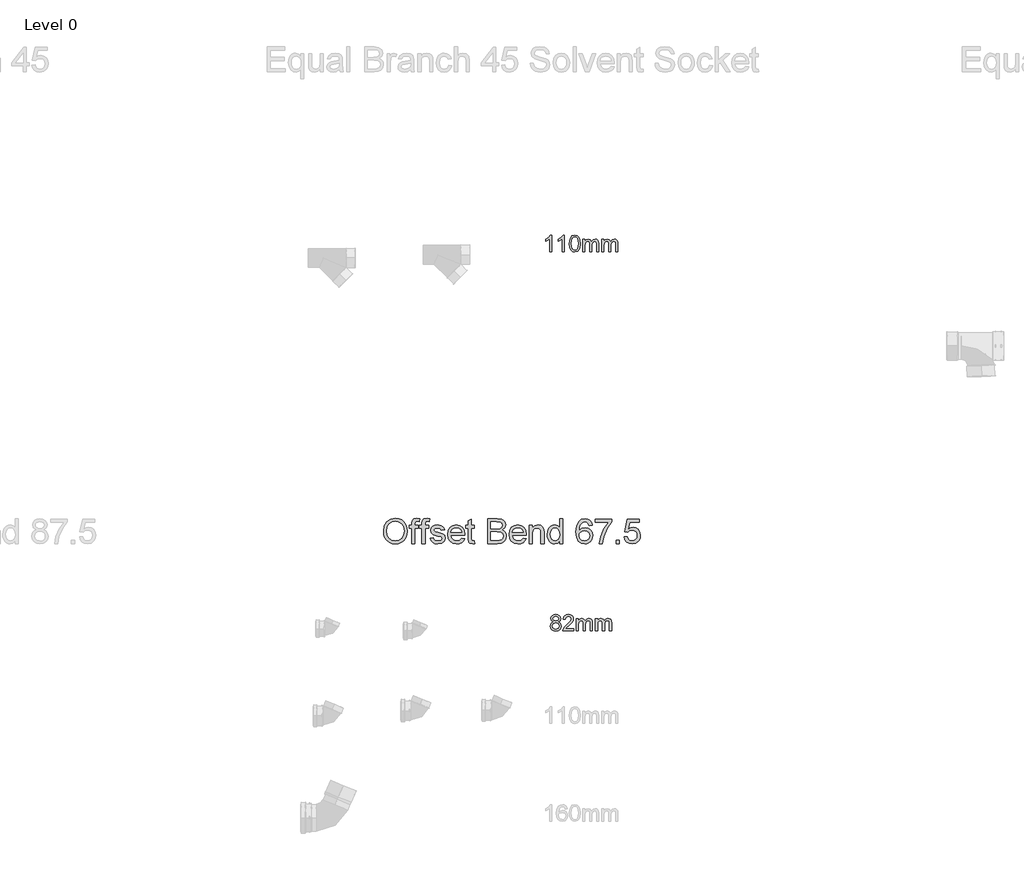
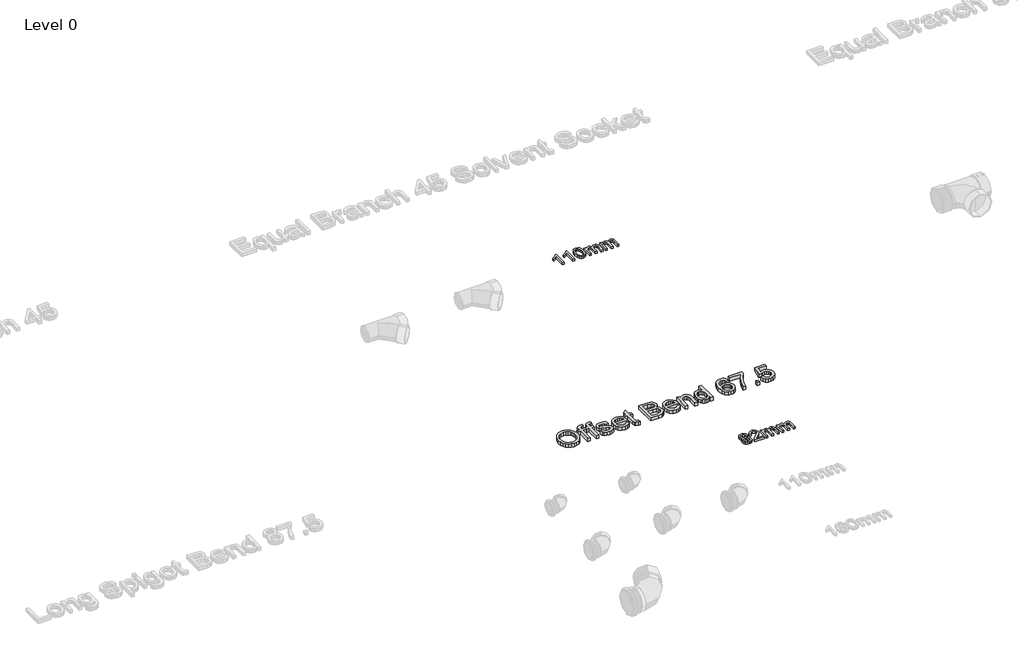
# One storey, part 16 of 28: 3 proxies.
"""IFC4 building model written with IfcOpenShell, lengths in millimetres."""

from ifc_helpers import new_model, si_unit, origin, origin_with_axes, place, context, project, spatial, polyline, outline, extrude, element, save

model = new_model("IFC4")

# Units and contexts
model_context = context("Model", 3, world=origin())
ifc_project = project(units=[si_unit("LENGTHUNIT", "METRE", prefix="MILLI")], contexts=[model_context])

# Site, building, storey
site = spatial("IfcSite", under=ifc_project)
building = spatial("IfcBuilding", under=site)
storey = spatial("IfcBuildingStorey", under=building, Name="Level 0", Elevation=0.0)

# Proxies
placement = place(None, origin())
element("IfcBuildingElementProxy", 1, Name="100mm Arial", ObjectType="100mm Arial", at=placement, inside=storey, context=model_context, shape_type="SweptSolid", body=[
    extrude(outline(polyline([(-10291.7293188, 2637.7167304), (-10304.0370111, 2637.7167304), (-10304.0370111, 2714.4474996), (-10315.6956649, 2706.1422111), (-10328.6523957, 2699.9282688), (-10328.6523957, 2711.5628842), (-10310.6115303, 2723.0773073), (-10299.6620111, 2736.1782688), (-10291.7293188, 2736.1782688), (-10291.7293188, 2637.7167304)])), origin_with_axes(), (0.0, 0.0, 1.0), 15.0),
    extrude(outline(polyline([(-10216.3447034, 2637.7167304), (-10228.6523957, 2637.7167304), (-10228.6523957, 2714.4474996), (-10240.3110495, 2706.1422111), (-10253.2677803, 2699.9282688), (-10253.2677803, 2711.5628842), (-10235.2269149, 2723.0773073), (-10224.2773957, 2736.1782688), (-10216.3447034, 2736.1782688), (-10216.3447034, 2637.7167304)])), origin_with_axes(), (0.0, 0.0, 1.0), 15.0),
    extrude(outline(polyline([(-10187.1139341, 2686.1542304), (-10183.4961457, 2714.4835573), (-10172.7509534, 2730.8176919), (-10154.8062418, 2736.1782688), (-10140.4312418, 2733.0051919), (-10130.5033572, 2723.8585573), (-10124.7341264, 2709.2912496), (-10122.4985495, 2686.1542304), (-10126.0802803, 2657.9450958), (-10136.7894149, 2641.5749035), (-10154.8062418, 2636.1782688), (-10167.5947034, 2638.5220188), (-10177.3062418, 2645.5532688), (-10184.6620111, 2662.2059131), (-10187.1139341, 2686.1542304)]), holes=[polyline([(-10174.8062418, 2686.1782688), (-10173.3639341, 2666.8182929), (-10169.0370111, 2655.613365), (-10162.5947034, 2650.2678121), (-10154.8062418, 2648.4859611), (-10147.0177803, 2650.2738217), (-10140.5754726, 2655.6374035), (-10136.2485495, 2666.848341), (-10134.8062418, 2686.1782688), (-10136.2004726, 2705.1025477), (-10140.3831649, 2716.394615), (-10146.8134534, 2722.0015861), (-10154.9504726, 2723.8705765), (-10162.6547995, 2722.2239419), (-10168.8447034, 2717.2840381), (-10173.3158572, 2705.2888458), (-10174.8062418, 2686.1782688)])]), origin_with_axes(), (0.0, 0.0, 1.0), 15.0),
    extrude(outline(polyline([(-10108.6523957, 2637.7167304), (-10108.6523957, 2710.0244227), (-10096.3447034, 2710.0244227), (-10096.3447034, 2698.1253842), (-10087.8831649, 2707.8729804), (-10075.8398957, 2711.5628842), (-10063.5081649, 2707.800865), (-10056.7293188, 2697.2599996), (-10047.1259534, 2707.9871631), (-10034.9985495, 2711.5628842), (-10025.7467466, 2710.0755044), (-10018.9047995, 2705.613365), (-10014.6770351, 2698.0562736), (-10013.2677803, 2687.2840381), (-10013.2677803, 2637.7167304), (-10025.5754726, 2637.7167304), (-10025.5754726, 2681.9955765), (-10026.7172995, 2692.2720188), (-10030.8519149, 2697.332115), (-10037.8831649, 2699.2551919), (-10049.9865303, 2694.3273073), (-10054.8062418, 2678.5340381), (-10054.8062418, 2637.7167304), (-10067.1139341, 2637.7167304), (-10067.1139341, 2683.3657688), (-10069.9624918, 2695.2888458), (-10079.3014341, 2699.2551919), (-10088.4120111, 2696.6109611), (-10094.4697034, 2688.8705765), (-10096.3447034, 2674.1830765), (-10096.3447034, 2637.7167304), (-10108.6523957, 2637.7167304)])), origin_with_axes(), (0.0, 0.0, 1.0), 15.0),
    extrude(outline(polyline([(-9994.8062418, 2637.7167304), (-9994.8062418, 2710.0244227), (-9982.4985495, 2710.0244227), (-9982.4985495, 2698.1253842), (-9974.0370111, 2707.8729804), (-9961.9937418, 2711.5628842), (-9949.6620111, 2707.800865), (-9942.8831649, 2697.2599996), (-9933.2797995, 2707.9871631), (-9921.1523957, 2711.5628842), (-9911.9005928, 2710.0755044), (-9905.0586457, 2705.613365), (-9900.8308813, 2698.0562736), (-9899.4216264, 2687.2840381), (-9899.4216264, 2637.7167304), (-9911.7293188, 2637.7167304), (-9911.7293188, 2681.9955765), (-9912.8711457, 2692.2720188), (-9917.0057611, 2697.332115), (-9924.0370111, 2699.2551919), (-9936.1403764, 2694.3273073), (-9940.960088, 2678.5340381), (-9940.960088, 2637.7167304), (-9953.2677803, 2637.7167304), (-9953.2677803, 2683.3657688), (-9956.116338, 2695.2888458), (-9965.4552803, 2699.2551919), (-9974.5658572, 2696.6109611), (-9980.6235495, 2688.8705765), (-9982.4985495, 2674.1830765), (-9982.4985495, 2637.7167304), (-9994.8062418, 2637.7167304)])), origin_with_axes(), (0.0, 0.0, 1.0), 15.0),
])
element("IfcBuildingElementProxy", 2, Name="100mm Arial", ObjectType="100mm Arial", at=placement, inside=storey, context=model_context, shape_type="SweptSolid", body=[
    extrude(outline(polyline([(-10282.2581649, 440.881174), (-10293.4721072, 448.5254048), (-10297.1139341, 460.4244433), (-10295.1307611, 470.0458375), (-10289.1812418, 477.9965587), (-10279.9324438, 483.3330971), (-10268.0514341, 485.1119433), (-10256.0983091, 483.2910298), (-10246.7293188, 477.8282894), (-10240.6716264, 469.7513663), (-10238.6523957, 460.0879048), (-10242.2461457, 448.4893471), (-10253.147588, 440.881174), (-10240.0586457, 431.2297317), (-10235.5754726, 415.304251), (-10237.7990303, 403.537424), (-10244.4697034, 393.8138663), (-10254.7701841, 387.287424), (-10267.8831649, 385.1119433), (-10280.9961457, 387.2964385), (-10291.2966264, 393.849924), (-10297.9672995, 403.6666308), (-10300.1908572, 415.6407894), (-10295.5273957, 431.9388663), (-10282.2581649, 440.881174)]), holes=[polyline([(-10284.8062418, 460.0638663), (-10280.4432611, 450.4004048), (-10267.7389341, 446.6504048), (-10255.2870111, 450.3763663), (-10250.960088, 459.5109817), (-10255.4312418, 468.9701163), (-10267.8831649, 472.804251), (-10280.3711457, 469.054251), (-10284.8062418, 460.0638663)]), polyline([(-10287.8831649, 416.0734817), (-10285.8278764, 406.8066548), (-10278.5562418, 399.8715587), (-10267.7870111, 397.4196356), (-10253.1235495, 402.5758856), (-10247.8831649, 415.6888663), (-10253.2918188, 429.054251), (-10259.7221072, 433.0205971), (-10268.1956649, 434.3427125), (-10282.678838, 429.1263663), (-10287.8831649, 416.0734817)])]), origin_with_axes(), (0.0, 0.0, 1.0), 15.0),
    extrude(outline(polyline([(-10161.7293188, 398.9580971), (-10161.7293188, 386.6504048), (-10226.3447034, 386.6504048), (-10225.022588, 395.1359817), (-10217.5466264, 408.2008856), (-10202.1379726, 422.4677125), (-10180.8879726, 442.9725202), (-10175.5754726, 456.9148279), (-10180.5874918, 468.2008856), (-10193.6764341, 472.804251), (-10207.3182611, 468.3090587), (-10212.4985495, 455.881174), (-10224.8062418, 457.4196356), (-10221.8224678, 469.3246837), (-10215.3711457, 478.0205971), (-10205.7888139, 483.3391067), (-10193.4120111, 485.1119433), (-10180.9450639, 483.1407894), (-10171.3807611, 477.2273279), (-10165.2960255, 468.3931933), (-10163.2677803, 457.6600202), (-10165.4552803, 445.9893471), (-10172.7269149, 433.9220394), (-10190.3591264, 417.0590587), (-10204.5177803, 405.2201163), (-10210.0706649, 398.9580971), (-10161.7293188, 398.9580971)])), origin_with_axes(), (0.0, 0.0, 1.0), 15.0),
    extrude(outline(polyline([(-10146.3447034, 386.6504048), (-10146.3447034, 458.9580971), (-10134.0370111, 458.9580971), (-10134.0370111, 447.0590587), (-10125.5754726, 456.8066548), (-10113.5322034, 460.4965587), (-10101.2004726, 456.7345394), (-10094.4216264, 446.193674), (-10084.8182611, 456.9208375), (-10072.6908572, 460.4965587), (-10063.4390543, 459.0091788), (-10056.5971072, 454.5470394), (-10052.3693428, 446.9899481), (-10050.960088, 436.2177125), (-10050.960088, 386.6504048), (-10063.2677803, 386.6504048), (-10063.2677803, 430.929251), (-10064.4096072, 441.2056933), (-10068.5442226, 446.2657894), (-10075.5754726, 448.1888663), (-10087.678838, 443.2609817), (-10092.4985495, 427.4677125), (-10092.4985495, 386.6504048), (-10104.8062418, 386.6504048), (-10104.8062418, 432.2994433), (-10107.6547995, 444.2225202), (-10116.9937418, 448.1888663), (-10126.1043188, 445.5446356), (-10132.1620111, 437.804251), (-10134.0370111, 423.116751), (-10134.0370111, 386.6504048), (-10146.3447034, 386.6504048)])), origin_with_axes(), (0.0, 0.0, 1.0), 15.0),
    extrude(outline(polyline([(-10032.4985495, 386.6504048), (-10032.4985495, 458.9580971), (-10020.1908572, 458.9580971), (-10020.1908572, 447.0590587), (-10011.7293188, 456.8066548), (-9999.6860495, 460.4965587), (-9987.3543188, 456.7345394), (-9980.5754726, 446.193674), (-9970.9721072, 456.9208375), (-9958.8447034, 460.4965587), (-9949.5929005, 459.0091788), (-9942.7509534, 454.5470394), (-9938.5231889, 446.9899481), (-9937.1139341, 436.2177125), (-9937.1139341, 386.6504048), (-9949.4216264, 386.6504048), (-9949.4216264, 430.929251), (-9950.5634534, 441.2056933), (-9954.6980688, 446.2657894), (-9961.7293188, 448.1888663), (-9973.8326841, 443.2609817), (-9978.6523957, 427.4677125), (-9978.6523957, 386.6504048), (-9990.960088, 386.6504048), (-9990.960088, 432.2994433), (-9993.8086457, 444.2225202), (-10003.147588, 448.1888663), (-10012.2581649, 445.5446356), (-10018.3158572, 437.804251), (-10020.1908572, 423.116751), (-10020.1908572, 386.6504048), (-10032.4985495, 386.6504048)])), origin_with_axes(), (0.0, 0.0, 1.0), 15.0),
])
element("IfcBuildingElementProxy", 3, Name="150mm Arial", ObjectType="150mm Arial", at=placement, inside=storey, context=model_context, shape_type="SweptSolid", body=[
    extrude(outline(polyline([(-11290.6049127, 977.1135604), (-11285.6830377, 1009.7728152), (-11270.9174127, 1034.4813488), (-11248.3723406, 1050.0312286), (-11220.1121243, 1055.2145219), (-11200.7401291, 1052.7806277), (-11183.3693358, 1045.478945), (-11168.9462589, 1033.823296), (-11158.4174127, 1018.3275027), (-11151.9811147, 999.7397623), (-11149.835682, 978.8082719), (-11152.0937949, 957.5973344), (-11158.8681339, 938.7481758), (-11169.7846002, 923.2253392), (-11184.4690954, 911.9933681), (-11201.6911507, 905.1784642), (-11220.2202973, 902.9068296), (-11239.8897685, 905.4173464), (-11257.3597204, 912.9488969), (-11271.7467397, 924.8208921), (-11282.1674127, 940.3527431), (-11288.4955377, 958.2238368), (-11290.6049127, 977.1135604)]), holes=[polyline([(-11272.1433743, 976.9332719), (-11268.451968, 953.8293056), (-11257.3777493, 936.2241373), (-11240.7326171, 925.0823104), (-11220.3284704, 921.3683681), (-11199.6268478, 925.1183681), (-11182.9546723, 936.3683681), (-11171.9615834, 954.5144017), (-11168.2972204, 978.9525027), (-11169.86573, 995.2956517), (-11174.5712589, 1009.4212527), (-11182.2921122, 1020.9732359), (-11192.9065954, 1029.5955315), (-11205.7115834, 1034.9636205), (-11220.0039512, 1036.7529835), (-11239.8627252, 1033.3049666), (-11256.7467397, 1022.9609161), (-11268.2942156, 1004.5579714), (-11272.1433743, 976.9332719)])]), origin_with_axes(), (0.0, 0.0, 1.0), 25.0),
    extrude(outline(polyline([(-11122.1433743, 905.2145219), (-11122.1433743, 995.2145219), (-11138.2972204, 995.2145219), (-11138.2972204, 1013.6760604), (-11122.1433743, 1013.6760604), (-11122.1433743, 1024.6015411), (-11120.1962589, 1039.9981758), (-11110.7491435, 1050.9957719), (-11092.1433743, 1055.2145219), (-11075.304432, 1053.1952911), (-11078.0087589, 1035.8875988), (-11088.6457781, 1036.7529835), (-11100.2743839, 1033.6880796), (-11103.6818358, 1022.2577911), (-11103.6818358, 1013.6760604), (-11082.912605, 1013.6760604), (-11082.912605, 995.2145219), (-11103.6818358, 995.2145219), (-11103.6818358, 905.2145219), (-11122.1433743, 905.2145219)])), origin_with_axes(), (0.0, 0.0, 1.0), 25.0),
    extrude(outline(polyline([(-11062.1433743, 905.2145219), (-11062.1433743, 995.2145219), (-11078.2972204, 995.2145219), (-11078.2972204, 1013.6760604), (-11062.1433743, 1013.6760604), (-11062.1433743, 1024.6015411), (-11060.1962589, 1039.9981758), (-11050.7491435, 1050.9957719), (-11032.1433743, 1055.2145219), (-11015.304432, 1053.1952911), (-11018.0087589, 1035.8875988), (-11028.6457781, 1036.7529835), (-11040.2743839, 1033.6880796), (-11043.6818358, 1022.2577911), (-11043.6818358, 1013.6760604), (-11022.912605, 1013.6760604), (-11022.912605, 995.2145219), (-11043.6818358, 995.2145219), (-11043.6818358, 905.2145219), (-11062.1433743, 905.2145219)])), origin_with_axes(), (0.0, 0.0, 1.0), 25.0),
    extrude(outline(polyline([(-11013.6818358, 937.5222142), (-10995.2202973, 939.8299065), (-10992.3086387, 931.9332719), (-10986.6746243, 926.1279835), (-10967.0952973, 921.3683681), (-10948.273182, 925.7313488), (-10942.1433743, 935.9717335), (-10948.3092397, 944.2650027), (-10967.3116435, 949.5294258), (-10995.1121243, 958.5618777), (-11007.2455377, 969.1087527), (-11011.3741435, 984.0005796), (-11008.0568358, 997.7565892), (-10999.006355, 1008.2674065), (-10987.2695762, 1013.7301469), (-10971.3861627, 1015.9837527), (-10948.9222204, 1012.3599546), (-10934.6433743, 1002.5522623), (-10928.2972204, 985.9837527), (-10946.7587589, 983.6760604), (-10953.6998647, 993.8623585), (-10969.943855, 997.5222142), (-10987.6121243, 994.0246181), (-10992.912605, 985.8755796), (-10990.7130858, 980.5029835), (-10983.8260666, 976.4284642), (-10967.9246243, 972.4981758), (-10940.8272685, 963.8082719), (-10928.2431339, 953.9645219), (-10923.6818358, 937.9188488), (-10929.0364031, 920.2505796), (-10944.4871243, 907.43207), (-10967.3477012, 902.9068296), (-10985.9624848, 905.08832), (-10999.5472204, 911.6327911), (-11008.61573, 922.4681277), (-11013.6818358, 937.5222142)])), origin_with_axes(), (0.0, 0.0, 1.0), 25.0),
    extrude(outline(polyline([(-10826.975105, 937.5222142), (-10808.8741435, 935.2145219), (-10815.3960786, 921.5756998), (-10825.80323, 911.3803873), (-10839.8612228, 905.025219), (-10857.335682, 902.9068296), (-10878.9973406, 906.5621782), (-10895.6650089, 917.5282238), (-10906.2930137, 935.0928272), (-10909.835682, 958.5438488), (-10906.256956, 982.7836325), (-10895.5207781, 1000.9116373), (-10879.0784704, 1012.2157238), (-10858.381355, 1015.9837527), (-10838.3287709, 1012.2247383), (-10822.3056339, 1000.947695), (-10811.7993238, 982.8557479), (-10808.2972204, 958.6520219), (-10808.4053935, 953.6760604), (-10891.3741435, 953.6760604), (-10888.1785305, 939.8569498), (-10880.7551531, 929.697695), (-10870.0415113, 923.4506998), (-10856.975105, 921.3683681), (-10838.8741435, 925.2265411), (-10826.975105, 937.5222142)]), holes=[polyline([(-10891.3741435, 972.1375988), (-10826.7587589, 972.1375988), (-10829.2557541, 981.8912046), (-10834.1505858, 988.8683681), (-10844.913807, 995.3587527), (-10858.4534704, 997.5222142), (-10870.8978815, 995.7959522), (-10881.1878454, 990.6171661), (-10888.3407901, 982.5447503), (-10891.3741435, 972.1375988)])]), origin_with_axes(), (0.0, 0.0, 1.0), 25.0),
    extrude(outline(polyline([(-10750.6049127, 920.6111565), (-10748.2972204, 904.6736565), (-10762.1073166, 902.9068296), (-10777.5760666, 905.9717335), (-10785.2924127, 914.0125988), (-10787.5279897, 934.9621181), (-10787.5279897, 995.2145219), (-10801.3741435, 995.2145219), (-10801.3741435, 1013.6760604), (-10787.5279897, 1013.6760604), (-10787.5279897, 1040.0342335), (-10769.0664512, 1050.8875988), (-10769.0664512, 1013.6760604), (-10750.6049127, 1013.6760604), (-10750.6049127, 995.2145219), (-10769.0664512, 995.2145219), (-10769.0664512, 935.5029835), (-10768.0928935, 925.9837527), (-10764.9378454, 922.6123585), (-10758.6457781, 921.3683681), (-10750.6049127, 920.6111565)])), origin_with_axes(), (0.0, 0.0, 1.0), 25.0),
    extrude(outline(polyline([(-10672.1433743, 905.2145219), (-10672.1433743, 1052.9068296), (-10615.7852012, 1052.9068296), (-10588.1830377, 1048.5618777), (-10578.9071964, 1043.049558), (-10571.8849608, 1035.2025027), (-10565.9895281, 1016.3082719), (-10570.9474608, 999.0546661), (-10585.929432, 985.9837527), (-10575.468194, 980.5210123), (-10567.7383262, 972.2097142), (-10562.9651892, 961.5997383), (-10561.3741435, 949.2409642), (-10565.7190954, 929.3912046), (-10576.4823166, 915.2565892), (-10592.5460185, 907.7565892), (-10616.2178935, 905.2145219), (-10672.1433743, 905.2145219)]), holes=[polyline([(-10653.6818358, 992.9068296), (-10619.9678935, 992.9068296), (-10600.2803935, 994.4933681), (-10588.4354416, 1001.3263008), (-10584.4510666, 1013.3515411), (-10588.1650089, 1025.3948104), (-10598.8020281, 1032.5162046), (-10622.5279897, 1034.4452911), (-10653.6818358, 1034.4452911), (-10653.6818358, 992.9068296)]), polyline([(-10653.6818358, 923.6760604), (-10615.8212589, 923.6760604), (-10602.1193358, 924.3972142), (-10590.5267877, 928.4176469), (-10582.8464993, 936.6207719), (-10579.835682, 949.0606758), (-10583.3693358, 963.4116373), (-10594.8176531, 971.9753392), (-10617.6241435, 974.4452911), (-10653.6818358, 974.4452911), (-10653.6818358, 923.6760604)])]), origin_with_axes(), (0.0, 0.0, 1.0), 25.0),
    extrude(outline(polyline([(-10462.3597204, 937.5222142), (-10444.2587589, 935.2145219), (-10450.780694, 921.5756998), (-10461.1878454, 911.3803873), (-10475.2458382, 905.025219), (-10492.7202973, 902.9068296), (-10514.381956, 906.5621782), (-10531.0496243, 917.5282238), (-10541.6776291, 935.0928272), (-10545.2202973, 958.5438488), (-10541.6415714, 982.7836325), (-10530.9053935, 1000.9116373), (-10514.4630858, 1012.2157238), (-10493.7659704, 1015.9837527), (-10473.7133863, 1012.2247383), (-10457.6902493, 1000.947695), (-10447.1839392, 982.8557479), (-10443.6818358, 958.6520219), (-10443.7900089, 953.6760604), (-10526.7587589, 953.6760604), (-10523.5631459, 939.8569498), (-10516.1397685, 929.697695), (-10505.4261267, 923.4506998), (-10492.3597204, 921.3683681), (-10474.2587589, 925.2265411), (-10462.3597204, 937.5222142)]), holes=[polyline([(-10526.7587589, 972.1375988), (-10462.1433743, 972.1375988), (-10464.6403695, 981.8912046), (-10469.5352012, 988.8683681), (-10480.2984223, 995.3587527), (-10493.8380858, 997.5222142), (-10506.2824969, 995.7959522), (-10516.5724608, 990.6171661), (-10523.7254055, 982.5447503), (-10526.7587589, 972.1375988)])]), origin_with_axes(), (0.0, 0.0, 1.0), 25.0),
    extrude(outline(polyline([(-10425.2202973, 905.2145219), (-10425.2202973, 1013.6760604), (-10406.7587589, 1013.6760604), (-10406.7587589, 998.5318296), (-10392.6421723, 1011.6207719), (-10373.3693358, 1015.9837527), (-10355.9354416, 1012.4681277), (-10344.0364031, 1003.2373585), (-10338.5015473, 989.6616373), (-10337.5279897, 971.8130796), (-10337.5279897, 905.2145219), (-10355.9895281, 905.2145219), (-10355.9895281, 969.3250988), (-10358.116932, 985.6592335), (-10365.6349608, 994.2950508), (-10378.3092397, 997.5222142), (-10389.1220401, 995.7103152), (-10398.3392877, 990.2746181), (-10404.6538911, 979.7728152), (-10406.7587589, 962.7625988), (-10406.7587589, 905.2145219), (-10425.2202973, 905.2145219)])), origin_with_axes(), (0.0, 0.0, 1.0), 25.0),
    extrude(outline(polyline([(-10245.2202973, 905.2145219), (-10245.2202973, 922.6303873), (-10257.4348406, 907.837719), (-10274.318855, 902.9068296), (-10286.2539512, 904.6916854), (-10297.179432, 910.0462527), (-10306.42823, 918.596433), (-10313.3332781, 929.9681277), (-10317.6331579, 943.7016012), (-10319.0664512, 959.3371181), (-10313.7839993, 988.7241373), (-10307.1854416, 1000.3797863), (-10297.9546723, 1008.9525027), (-10286.7903094, 1014.2259402), (-10274.3909704, 1015.9837527), (-10257.3717397, 1010.9537046), (-10245.2202973, 997.8827911), (-10245.2202973, 1052.9068296), (-10226.7587589, 1052.9068296), (-10226.7587589, 905.2145219), (-10245.2202973, 905.2145219)]), holes=[polyline([(-10300.6049127, 959.4092335), (-10298.522581, 942.7100147), (-10292.2755858, 930.8335123), (-10283.1980618, 923.7346541), (-10272.6241435, 921.3683681), (-10262.0547324, 923.6264811), (-10253.2070762, 930.40082), (-10247.2169921, 941.8175868), (-10245.2202973, 958.0029835), (-10247.2530497, 975.698296), (-10253.351307, 987.9669258), (-10262.4243238, 995.1333921), (-10273.381355, 997.5222142), (-10284.0634464, 995.2280436), (-10292.8164512, 988.3455315), (-10298.6577973, 976.5231157), (-10300.6049127, 959.4092335)])]), origin_with_axes(), (0.0, 0.0, 1.0), 25.0),
    extrude(outline(polyline([(-10051.3741435, 1013.6760604), (-10069.835682, 1011.3683681), (-10076.8308743, 1026.7650027), (-10085.2052733, 1032.525219), (-10095.3284704, 1034.4452911), (-10111.9871243, 1029.9741373), (-10124.5892877, 1013.1892815), (-10128.4159103, 999.4377791), (-10129.835682, 980.2866373), (-10113.5556339, 995.0162046), (-10093.381355, 999.8299065), (-10076.3260666, 996.5396421), (-10062.0111627, 986.6688488), (-10052.3026291, 971.587719), (-10049.0664512, 952.666445), (-10050.5898887, 939.4467936), (-10055.1602012, 927.1916854), (-10062.3987829, 916.7980556), (-10071.9270281, 909.1628392), (-10083.3122445, 904.470832), (-10096.1217397, 902.9068296), (-10117.0667517, 907.0534642), (-10133.7479416, 919.4933681), (-10144.6599007, 941.4525027), (-10148.2972204, 974.1568296), (-10144.2587589, 1010.9266613), (-10132.1433743, 1036.0678873), (-10115.6019079, 1048.697094), (-10094.1746243, 1052.9068296), (-10077.975706, 1050.3016613), (-10065.0039512, 1042.4861565), (-10055.9174127, 1030.073296), (-10051.3741435, 1013.6760604)]), holes=[polyline([(-10129.835682, 952.9549065), (-10125.5628454, 936.96332), (-10114.2046723, 925.3527431), (-10097.5640473, 921.3683681), (-10085.3810546, 923.432671), (-10075.80323, 929.6255796), (-10069.5967997, 939.3611565), (-10067.5279897, 952.0534642), (-10069.5697565, 964.236457), (-10075.695057, 973.52582), (-10085.4351411, 979.4077311), (-10098.3212589, 981.3683681), (-10110.4862228, 979.4077311), (-10120.6589993, 973.52582), (-10127.5415113, 964.4618176), (-10129.835682, 952.9549065)])]), origin_with_axes(), (0.0, 0.0, 1.0), 25.0),
    extrude(outline(polyline([(-10032.912605, 1032.1375988), (-10032.912605, 1050.5991373), (-9935.9895281, 1050.5991373), (-9935.9895281, 1035.6712527), (-9963.4835185, 995.9537046), (-9984.523182, 945.3467335), (-9991.3741435, 905.2145219), (-10009.835682, 905.2145219), (-10002.4979416, 946.8611565), (-9982.3597204, 993.9344738), (-9954.4510666, 1032.1375988), (-10032.912605, 1032.1375988)])), origin_with_axes(), (0.0, 0.0, 1.0), 25.0),
    extrude(outline(polyline([(-9910.6049127, 905.2145219), (-9910.6049127, 923.6760604), (-9892.1433743, 923.6760604), (-9892.1433743, 905.2145219), (-9910.6049127, 905.2145219)])), origin_with_axes(), (0.0, 0.0, 1.0), 25.0),
    extrude(outline(polyline([(-9862.1433743, 944.4452911), (-9843.6818358, 946.7529835), (-9840.2924127, 935.6697503), (-9834.3789512, 927.7325508), (-9825.9684945, 922.9594137), (-9815.0880858, 921.3683681), (-9801.8549127, 923.5814089), (-9791.9390473, 930.2205315), (-9785.7461387, 940.5195099), (-9783.6818358, 953.7121181), (-9785.6154296, 966.1339931), (-9791.4162108, 975.635195), (-9801.1292517, 981.665844), (-9814.7996243, 983.6760604), (-9831.007557, 980.4669258), (-9841.3741435, 972.1375988), (-9859.835682, 974.4452911), (-9843.6818358, 1050.5991373), (-9772.1433743, 1050.5991373), (-9772.1433743, 1032.1375988), (-9828.7539512, 1032.1375988), (-9836.6505858, 991.4645219), (-9823.4624848, 999.4693296), (-9809.6433743, 1002.1375988), (-9792.3942757, 998.8293056), (-9778.0748647, 988.9044258), (-9768.4339392, 973.7782238), (-9765.2202973, 954.8659642), (-9768.1139272, 936.4044258), (-9776.7948166, 920.6111565), (-9793.4174127, 907.3329113), (-9815.1602012, 902.9068296), (-9833.2927132, 905.7508801), (-9847.7383262, 914.2830315), (-9857.6406699, 927.5116974), (-9862.1433743, 944.4452911)])), origin_with_axes(), (0.0, 0.0, 1.0), 25.0),
])

save(model, "model.ifc")
